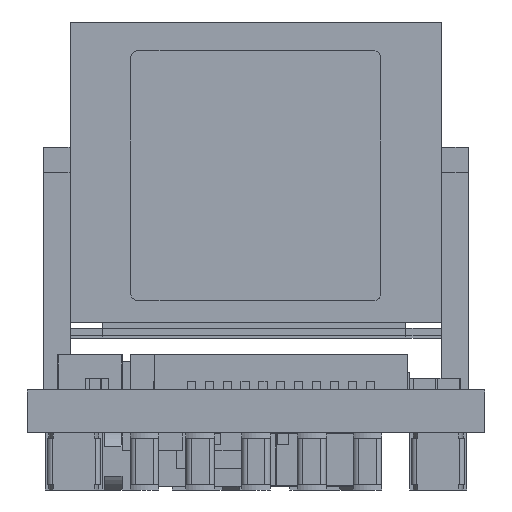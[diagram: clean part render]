
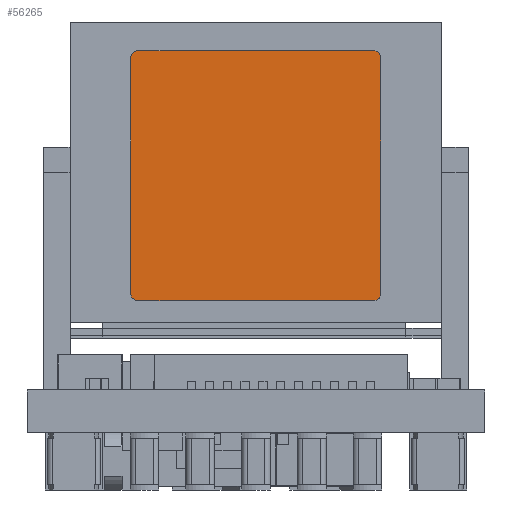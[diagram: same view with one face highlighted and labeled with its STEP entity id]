
A CAD part, left-side view. The second image highlights one B-rep face of the part: STEP entity #56265.
In plain terms, the highlighted planar face has unit normal (-1, 0, 0) as drawn and (0, 1, 0) by its records, which use the part's own axes.
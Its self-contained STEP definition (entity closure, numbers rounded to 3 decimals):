
#56046=CARTESIAN_POINT('',(-3.3,0.127,-0.2));
#56047=DIRECTION('',(0.,1.,0.));
#56048=DIRECTION('',(-1.,0.,0.));
#56049=AXIS2_PLACEMENT_3D('',#56046,#56047,#56048);
#56051=DIRECTION('',(0.,0.,1.));
#56052=VECTOR('',#56051,6.6);
#56053=CARTESIAN_POINT('',(-3.5,0.127,-6.8));
#56054=LINE('',#56053,#56052);
#56055=CARTESIAN_POINT('',(-3.3,0.127,-6.8));
#56056=DIRECTION('',(0.,1.,0.));
#56057=DIRECTION('',(0.,0.,-1.));
#56058=AXIS2_PLACEMENT_3D('',#56055,#56056,#56057);
#56060=DIRECTION('',(-1.,0.,0.));
#56061=VECTOR('',#56060,6.6);
#56062=CARTESIAN_POINT('',(3.3,0.127,-7.));
#56063=LINE('',#56062,#56061);
#56064=CARTESIAN_POINT('',(3.3,0.127,-6.8));
#56065=DIRECTION('',(0.,1.,0.));
#56066=DIRECTION('',(1.,0.,0.));
#56067=AXIS2_PLACEMENT_3D('',#56064,#56065,#56066);
#56069=DIRECTION('',(0.,0.,-1.));
#56070=VECTOR('',#56069,6.6);
#56071=CARTESIAN_POINT('',(3.5,0.127,-0.2));
#56072=LINE('',#56071,#56070);
#56073=CARTESIAN_POINT('',(3.3,0.127,-0.2));
#56074=DIRECTION('',(0.,1.,0.));
#56075=DIRECTION('',(0.,0.,1.));
#56076=AXIS2_PLACEMENT_3D('',#56073,#56074,#56075);
#56078=DIRECTION('',(1.,0.,0.));
#56079=VECTOR('',#56078,6.6);
#56080=CARTESIAN_POINT('',(-3.3,0.127,0.));
#56081=LINE('',#56080,#56079);
#56086=CARTESIAN_POINT('',(-3.5,0.127,-0.2));
#56087=VERTEX_POINT('',#56086);
#56088=CARTESIAN_POINT('',(-3.3,0.127,0.));
#56089=VERTEX_POINT('',#56088);
#56094=CARTESIAN_POINT('',(3.3,0.127,0.));
#56095=VERTEX_POINT('',#56094);
#56096=CARTESIAN_POINT('',(3.5,0.127,-0.2));
#56097=VERTEX_POINT('',#56096);
#56102=CARTESIAN_POINT('',(3.5,0.127,-6.8));
#56103=VERTEX_POINT('',#56102);
#56104=CARTESIAN_POINT('',(3.3,0.127,-7.));
#56105=VERTEX_POINT('',#56104);
#56110=CARTESIAN_POINT('',(-3.3,0.127,-7.));
#56111=VERTEX_POINT('',#56110);
#56112=CARTESIAN_POINT('',(-3.5,0.127,-6.8));
#56113=VERTEX_POINT('',#56112);
#56250=CARTESIAN_POINT('',(0.,0.127,0.));
#56251=DIRECTION('',(0.,1.,0.));
#56252=DIRECTION('',(1.,0.,0.));
#56253=AXIS2_PLACEMENT_3D('',#56250,#56251,#56252);
#56254=PLANE('',#56253);
#56255=ORIENTED_EDGE('',*,*,#56146,.F.);
#56256=ORIENTED_EDGE('',*,*,#56162,.F.);
#56257=ORIENTED_EDGE('',*,*,#56175,.F.);
#56258=ORIENTED_EDGE('',*,*,#56188,.F.);
#56259=ORIENTED_EDGE('',*,*,#56203,.F.);
#56260=ORIENTED_EDGE('',*,*,#56216,.F.);
#56261=ORIENTED_EDGE('',*,*,#56231,.F.);
#56262=ORIENTED_EDGE('',*,*,#56243,.F.);
#56263=EDGE_LOOP('',(#56255,#56256,#56257,#56258,#56259,#56260,#56261,#56262));
#56264=FACE_OUTER_BOUND('',#56263,.F.);
#56265=ADVANCED_FACE('',(#56264),#56254,.T.);
#56050=CIRCLE('',#56049,0.2);
#56059=CIRCLE('',#56058,0.2);
#56068=CIRCLE('',#56067,0.2);
#56077=CIRCLE('',#56076,0.2);
#56146=EDGE_CURVE('',#56087,#56089,#56050,.T.);
#56162=EDGE_CURVE('',#56113,#56087,#56054,.T.);
#56175=EDGE_CURVE('',#56111,#56113,#56059,.T.);
#56188=EDGE_CURVE('',#56105,#56111,#56063,.T.);
#56203=EDGE_CURVE('',#56103,#56105,#56068,.T.);
#56216=EDGE_CURVE('',#56097,#56103,#56072,.T.);
#56231=EDGE_CURVE('',#56095,#56097,#56077,.T.);
#56243=EDGE_CURVE('',#56089,#56095,#56081,.T.);
